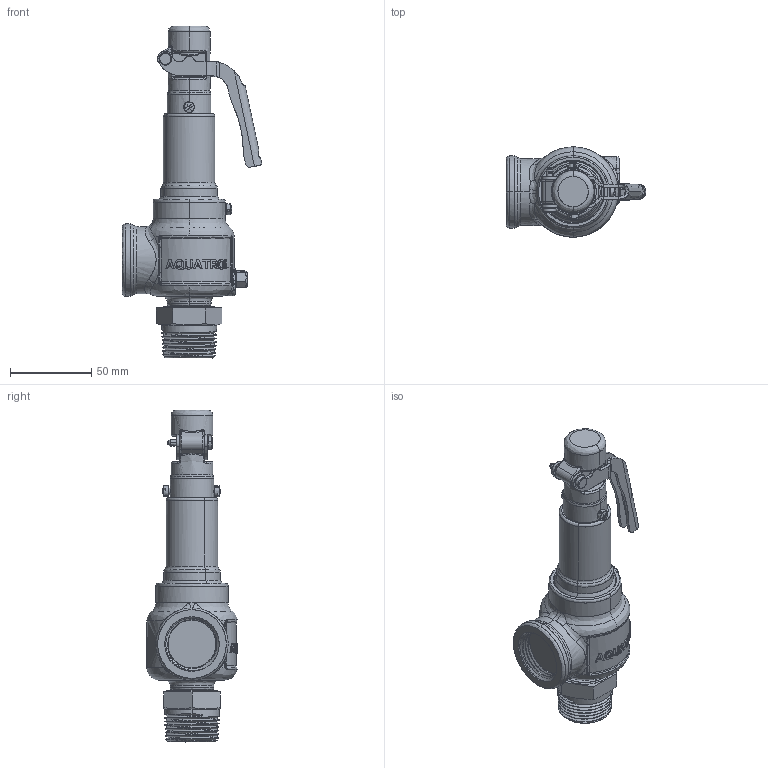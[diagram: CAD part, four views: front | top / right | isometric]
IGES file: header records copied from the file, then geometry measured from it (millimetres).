
Start section: SolidWorks IGES file using NURBS representation for surfaces
Global section: file name: C:\Design\Design\Aquatrol\Customer 3D Files\Series 740 Customer Files\D Orifice\Customer\Iges Files\Series 740 D 1000 x 1000 Open Lever.IGS; native system: SolidWorks 2015; preprocessor: SolidWorks 2015; author: Karl; date: 150515.081033; units: inch
Bounding box: 86.11 x 55.56 x 204.47 mm (x, y, z)
Surface area: 39289.4 mm2 (no closed solid volume)
Topology: 0 solids, 0 shells, 546 faces, 8433 edges, 8433 vertices
Faces by surface type: bspline 546
